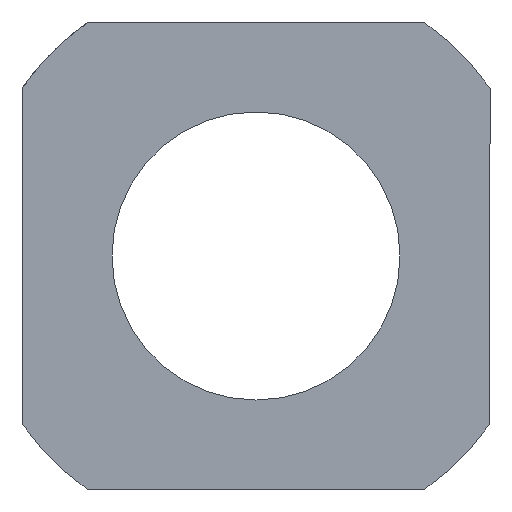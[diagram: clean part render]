
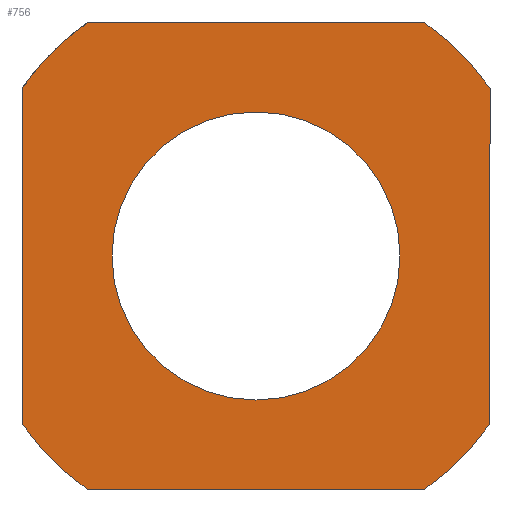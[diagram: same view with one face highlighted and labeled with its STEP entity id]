
A CAD part, left-side view. The second image highlights one B-rep face of the part: STEP entity #756.
In plain terms, the highlighted planar face has unit normal (-1, 0, 0).
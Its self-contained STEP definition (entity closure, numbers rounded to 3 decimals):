
#396=CARTESIAN_POINT('',(0.0,4.664,6.5));
#397=VERTEX_POINT('',#396);
#404=CARTESIAN_POINT('',(0.0,-4.664,6.5));
#405=VERTEX_POINT('',#404);
#406=CARTESIAN_POINT('',(0.0,-4.664,6.5));
#407=DIRECTION('',(0.0,1.0,0.0));
#408=VECTOR('',#407,9.327);
#409=LINE('',#406,#408);
#410=EDGE_CURVE('',#405,#397,#409,.T.);
#444=CARTESIAN_POINT('',(0.0,6.5,4.664));
#445=VERTEX_POINT('',#444);
#452=CARTESIAN_POINT('',(0.0,0.0,0.0));
#453=DIRECTION('',(1.0,0.0,0.0));
#454=DIRECTION('',(0.0,1.0,0.0));
#455=AXIS2_PLACEMENT_3D('',#452,#453,#454);
#456=CIRCLE('',#455,8.0);
#457=EDGE_CURVE('',#445,#397,#456,.T.);
#500=CARTESIAN_POINT('',(0.0,-4.0,0.0));
#501=VERTEX_POINT('',#500);
#502=CARTESIAN_POINT('',(0.0,0.0,0.0));
#503=DIRECTION('',(1.0,0.0,0.0));
#504=DIRECTION('',(0.0,-1.0,0.0));
#505=AXIS2_PLACEMENT_3D('',#502,#503,#504);
#506=CIRCLE('',#505,4.0);
#507=EDGE_CURVE('',#501,#501,#506,.T.);
#527=CARTESIAN_POINT('',(0.0,-4.664,-6.5));
#528=VERTEX_POINT('',#527);
#535=CARTESIAN_POINT('',(0.0,4.664,-6.5));
#536=VERTEX_POINT('',#535);
#537=CARTESIAN_POINT('',(0.0,4.664,-6.5));
#538=DIRECTION('',(0.0,-1.0,0.0));
#539=VECTOR('',#538,9.327);
#540=LINE('',#537,#539);
#541=EDGE_CURVE('',#536,#528,#540,.T.);
#567=CARTESIAN_POINT('',(0.0,-6.5,4.664));
#568=VERTEX_POINT('',#567);
#575=CARTESIAN_POINT('',(0.0,-6.5,-4.664));
#576=VERTEX_POINT('',#575);
#577=CARTESIAN_POINT('',(0.0,-6.5,-4.664));
#578=DIRECTION('',(0.0,0.0,1.0));
#579=VECTOR('',#578,9.327);
#580=LINE('',#577,#579);
#581=EDGE_CURVE('',#576,#568,#580,.T.);
#614=CARTESIAN_POINT('',(0.0,6.5,-4.664));
#615=VERTEX_POINT('',#614);
#622=CARTESIAN_POINT('',(0.0,6.5,4.664));
#623=DIRECTION('',(0.0,0.0,-1.0));
#624=VECTOR('',#623,9.327);
#625=LINE('',#622,#624);
#626=EDGE_CURVE('',#445,#615,#625,.T.);
#638=CARTESIAN_POINT('',(0.0,0.0,0.0));
#639=DIRECTION('',(1.0,0.0,0.0));
#640=DIRECTION('',(0.0,1.0,0.0));
#641=AXIS2_PLACEMENT_3D('',#638,#639,#640);
#642=CIRCLE('',#641,8.0);
#643=EDGE_CURVE('',#536,#615,#642,.T.);
#670=CARTESIAN_POINT('',(0.0,0.0,0.0));
#671=DIRECTION('',(1.0,0.0,0.0));
#672=DIRECTION('',(0.0,1.0,0.0));
#673=AXIS2_PLACEMENT_3D('',#670,#671,#672);
#674=CIRCLE('',#673,8.0);
#675=EDGE_CURVE('',#576,#528,#674,.T.);
#732=CARTESIAN_POINT('',(0.0,4.0,0.0));
#733=DIRECTION('',(-1.0,0.0,0.0));
#734=DIRECTION('',(0.0,0.0,1.0));
#735=AXIS2_PLACEMENT_3D('',#732,#733,#734);
#736=PLANE('',#735);
#737=ORIENTED_EDGE('',*,*,#410,.T.);
#738=ORIENTED_EDGE('',*,*,#457,.F.);
#739=ORIENTED_EDGE('',*,*,#626,.T.);
#740=ORIENTED_EDGE('',*,*,#643,.F.);
#741=ORIENTED_EDGE('',*,*,#541,.T.);
#742=ORIENTED_EDGE('',*,*,#675,.F.);
#743=ORIENTED_EDGE('',*,*,#581,.T.);
#744=CARTESIAN_POINT('',(0.0,0.0,0.0));
#745=DIRECTION('',(1.0,0.0,0.0));
#746=DIRECTION('',(0.0,1.0,0.0));
#747=AXIS2_PLACEMENT_3D('',#744,#745,#746);
#748=CIRCLE('',#747,8.0);
#749=EDGE_CURVE('',#405,#568,#748,.T.);
#750=ORIENTED_EDGE('',*,*,#749,.F.);
#751=EDGE_LOOP('',(#737,#738,#739,#740,#741,#742,#743,#750));
#752=FACE_OUTER_BOUND('',#751,.T.);
#753=ORIENTED_EDGE('',*,*,#507,.T.);
#754=EDGE_LOOP('',(#753));
#755=FACE_BOUND('',#754,.T.);
#756=ADVANCED_FACE('',(#752,#755),#736,.T.);
